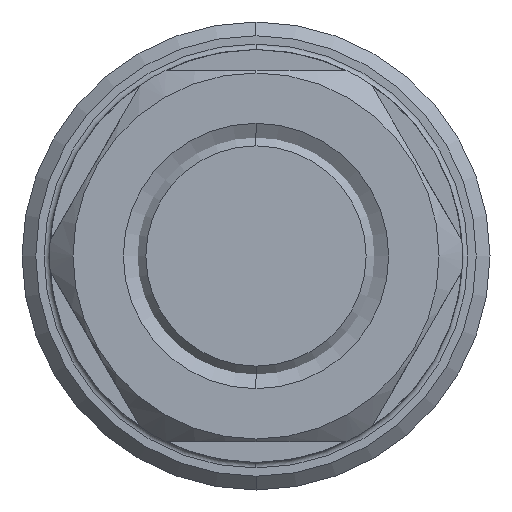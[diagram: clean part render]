
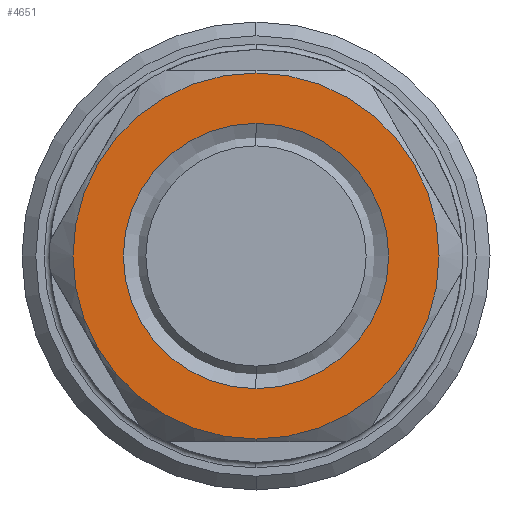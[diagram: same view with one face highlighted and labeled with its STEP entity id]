
A CAD part, left-side view. The second image highlights one B-rep face of the part: STEP entity #4651.
In plain terms, the highlighted planar face has unit normal (-1, 0, 0).
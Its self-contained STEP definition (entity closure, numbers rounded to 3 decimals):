
#7 = CIRCLE ( 'NONE', #4337, 13.3 ) ;
#498 = AXIS2_PLACEMENT_3D ( 'NONE', #2503, #2495, #2493 ) ;
#731 = CIRCLE ( 'NONE', #498, 9.636 ) ;
#1565 = AXIS2_PLACEMENT_3D ( 'NONE', #6649, #6587, #6616 ) ;
#1761 = CARTESIAN_POINT ( 'NONE',  ( -78., 0., 13.3 ) ) ;
#1799 = EDGE_CURVE ( 'NONE', #4177, #3058, #3520, .T. ) ;
#2066 = DIRECTION ( 'NONE',  ( 0., 0., -1. ) ) ;
#2071 = DIRECTION ( 'NONE',  ( 1., 0., 0. ) ) ;
#2079 = CARTESIAN_POINT ( 'NONE',  ( -78., 0., 0. ) ) ;
#2102 = AXIS2_PLACEMENT_3D ( 'NONE', #5496, #5486, #5337 ) ;
#2313 = VERTEX_POINT ( 'NONE', #1761 ) ;
#2493 = DIRECTION ( 'NONE',  ( 0., 0., 1. ) ) ;
#2495 = DIRECTION ( 'NONE',  ( 1., 0., 0. ) ) ;
#2503 = CARTESIAN_POINT ( 'NONE',  ( -78., 0., 0. ) ) ;
#2637 = CARTESIAN_POINT ( 'NONE',  ( -78., 0., -13.3 ) ) ;
#3058 = VERTEX_POINT ( 'NONE', #6960 ) ;
#3239 = CARTESIAN_POINT ( 'NONE',  ( -78., 0., -9.636 ) ) ;
#3520 = CIRCLE ( 'NONE', #2102, 9.636 ) ;
#3874 = FACE_OUTER_BOUND ( 'NONE', #6053, .T. ) ;
#3890 = FACE_BOUND ( 'NONE', #7071, .T. ) ;
#4177 = VERTEX_POINT ( 'NONE', #3239 ) ;
#4337 = AXIS2_PLACEMENT_3D ( 'NONE', #4952, #4943, #4932 ) ;
#4651 = ADVANCED_FACE ( 'NONE', ( #3890, #3874 ), #6921, .T. ) ;
#4787 = AXIS2_PLACEMENT_3D ( 'NONE', #2079, #2071, #2066 ) ;
#4914 = ORIENTED_EDGE ( 'NONE', *, *, #7476, .T. ) ;
#4919 = ORIENTED_EDGE ( 'NONE', *, *, #1799, .T. ) ;
#4932 = DIRECTION ( 'NONE',  ( 0., 0., -1. ) ) ;
#4943 = DIRECTION ( 'NONE',  ( 1., 0., 0. ) ) ;
#4952 = CARTESIAN_POINT ( 'NONE',  ( -78., 0., 0. ) ) ;
#4953 = ORIENTED_EDGE ( 'NONE', *, *, #5458, .F. ) ;
#4973 = ORIENTED_EDGE ( 'NONE', *, *, #5167, .F. ) ;
#5167 = EDGE_CURVE ( 'NONE', #2313, #7391, #7, .T. ) ;
#5337 = DIRECTION ( 'NONE',  ( 0., 0., 1. ) ) ;
#5458 = EDGE_CURVE ( 'NONE', #7391, #2313, #6894, .T. ) ;
#5486 = DIRECTION ( 'NONE',  ( 1., 0., 0. ) ) ;
#5496 = CARTESIAN_POINT ( 'NONE',  ( -78., 0., 0. ) ) ;
#6053 = EDGE_LOOP ( 'NONE', ( #4953, #4973 ) ) ;
#6587 = DIRECTION ( 'NONE',  ( -1., 0., 0. ) ) ;
#6616 = DIRECTION ( 'NONE',  ( 0., 0., 1. ) ) ;
#6649 = CARTESIAN_POINT ( 'NONE',  ( -78., 13.3, 0. ) ) ;
#6894 = CIRCLE ( 'NONE', #4787, 13.3 ) ;
#6921 = PLANE ( 'NONE',  #1565 ) ;
#6960 = CARTESIAN_POINT ( 'NONE',  ( -78., 0., 9.636 ) ) ;
#7071 = EDGE_LOOP ( 'NONE', ( #4914, #4919 ) ) ;
#7391 = VERTEX_POINT ( 'NONE', #2637 ) ;
#7476 = EDGE_CURVE ( 'NONE', #3058, #4177, #731, .T. ) ;
